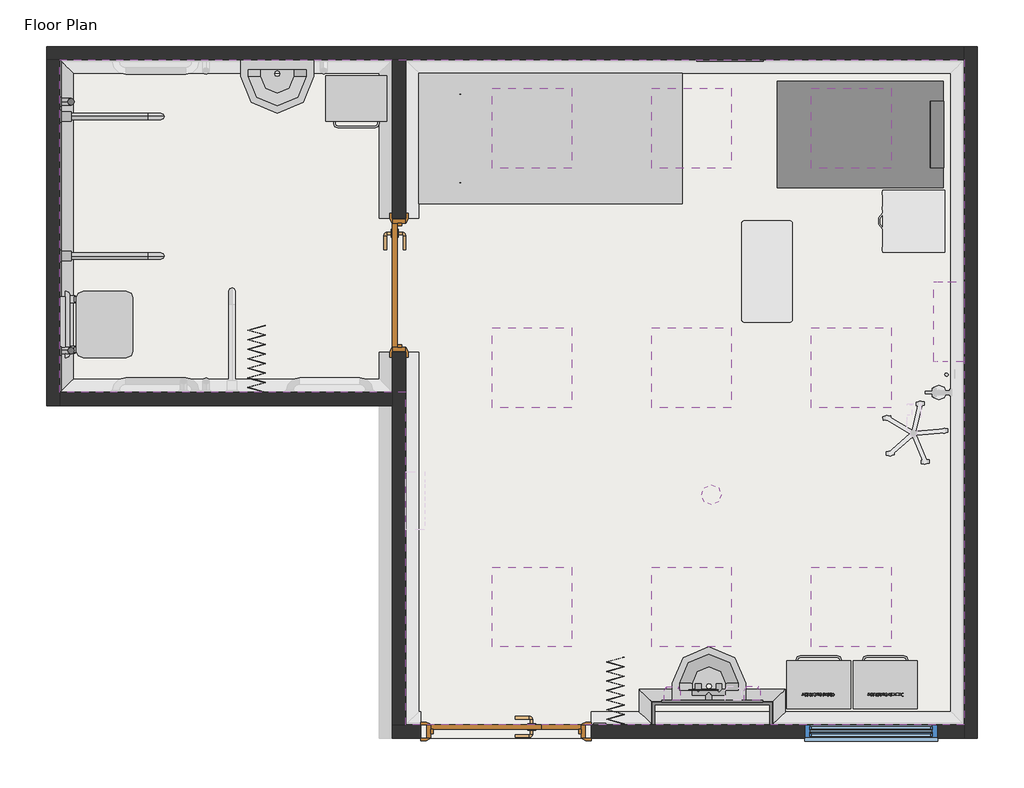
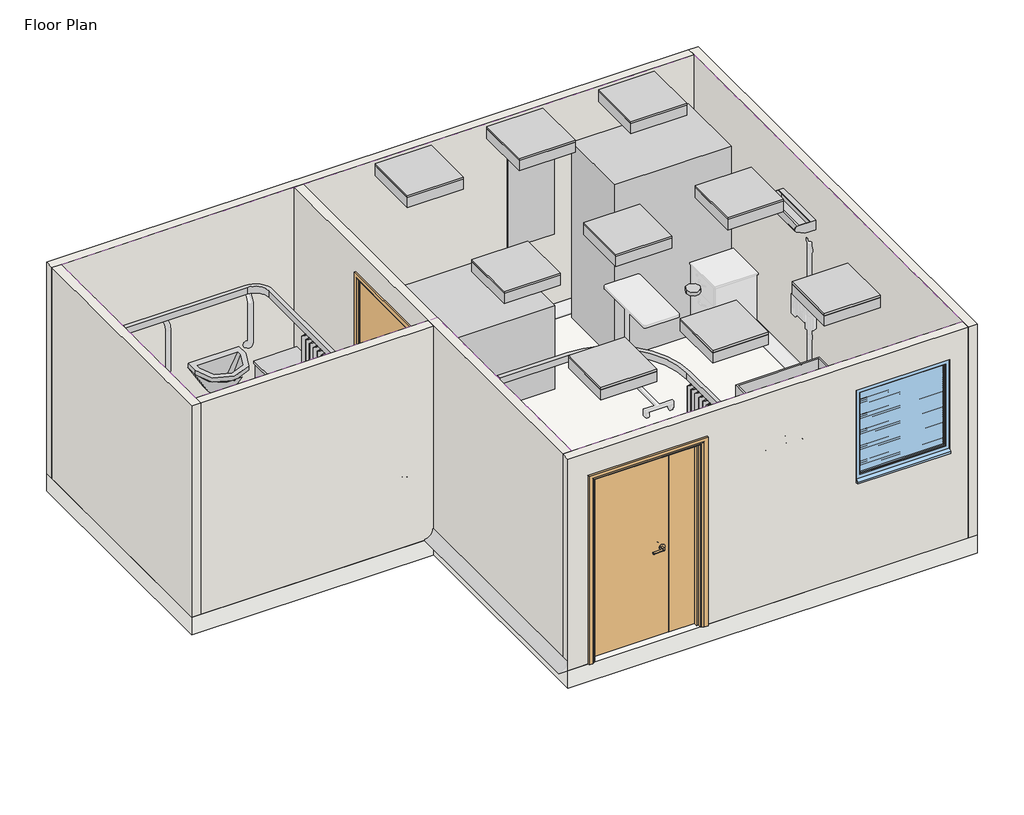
# One storey, part 1 of 2: 12 furniture elements, 10 light fixtures, 8 proxies, 6 walls, 3 flow terminals, 2 doors, 1 covering, 1 slab, 1 window.
"""IFC4 building model written with IfcOpenShell, lengths in millimetres."""

from ifc_helpers import new_model, si_unit, frame, origin, place, context, project, spatial, polyline, ellipse_curve, outline, extrude, faceted_brep, transform, mapped, element, save
from ifc_brep_helpers import plane_surface, revolved_surface, advanced_brep
from components import generic_models_b4c89709, bimhealth_electrical_light_switch_v1_type_1_b5e59f8a, bimhealth_electrical_smoke_detector_v1_bimhealth_electrical_fe9fcb6c, type_1_3e4eb001, type_1_f4c963d5, type_1_f275d547, door_1010x2110mm_ad0e13af, bimhealth_door_and_half_1210x2110mm_sgl_swing_70a7d20a, flow_terminal_9bf15598, flow_terminal_004a381b, flow_terminal_30861e1c, furniture_785aeefc, furniture_cd7ab82e, furniture_29951476, furniture_46abfedd, furniture_01accdc3, furniture_af9008cf, furniture_f87fb194, furniture_385ba860, furniture_166ce8d1, furniture_26d36cfe, furniture_197fe330, furniture_610823a6, lighting_fixtures_troffer_parabolic_square_600x600mm_2_lamps_e1dca80e, type_1_dfacdb5c, window_e51dcf83

model = new_model("IFC4")

# Units and contexts
model_context = context("Model", 3, world=origin())
ifc_project = project(units=[si_unit("LENGTHUNIT", "METRE", prefix="MILLI")], contexts=[model_context])

# Site, building, storey
site = spatial("IfcSite", under=ifc_project)
building = spatial("IfcBuilding", under=site)
storey = spatial("IfcBuildingStorey", under=building, Name="Floor Plan", Elevation=0.0)

# Proxies
placement = place(None, origin())
element("IfcBuildingElementProxy", 1, Name="Wall Sweeps", at=placement, inside=storey, context=model_context, shape_type="AdvancedBrep", body=[
    advanced_brep(
    [(-495.0, 5415.0, 0.0), (-495.0, 5415.0, 100.0), (-485.0, 5405.0, 100.0), (-395.0, 5315.0, 10.0), (-395.0, 5315.0, 0.0), (-495.0, 2915.0, 0.0), (-395.0, 3015.0, 0.0), (-395.0, 3015.0, 10.0), (-485.0, 2925.0, 100.0), (-495.0, 2915.0, 100.0)],
    [
        (0, 1),
        (1, 2),
        (2, 3, ellipse_curve(frame((-395.0, 5315.0, 100.0), z_axis=(-0.7071067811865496, -0.7071067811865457, 0.0), x_axis=(0.7071067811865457, -0.7071067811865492, 0.0)), 127.2792206, 90.0)),
        (3, 4),
        (4, 0),
        (5, 6),
        (6, 7),
        (7, 8, ellipse_curve(frame((-395.0, 3015.0, 100.0), z_axis=(-0.707106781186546, 0.7071067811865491, 0.0), x_axis=(-0.7071067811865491, -0.7071067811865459, 0.0)), 127.2792206, 90.0)),
        (8, 9),
        (9, 5),
        (0, 5),
        (9, 1),
        (8, 2),
        (7, 3),
        (6, 4),
    ],
    [
        plane_surface(frame((-495.0, 5415.0, -304.8), z_axis=(0.7071067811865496, 0.7071067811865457, 0.0), x_axis=(0.7071067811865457, -0.7071067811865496, 0.0))),
        plane_surface(frame((-495.0, 2915.0, -304.8), z_axis=(0.707106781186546, -0.7071067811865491, 0.0), x_axis=(0.7071067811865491, 0.707106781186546, 0.0))),
        plane_surface(frame((-495.0, 5415.0, 0.0), z_axis=(-1.0, 0.0, 0.0), x_axis=(0.0, -1.0, 0.0))),
        plane_surface(frame((-495.0, 5415.0, 100.0), z_axis=(0.0, 0.0, 1.0), x_axis=(0.0, -1.0, 0.0))),
        revolved_surface(polyline([(-305.0, 2925.0, 100.0), (-305.0, 5405.0, 100.0)]), (-395.0, 5415.0, 100.0), (0.0, -1.0, 0.0)),
        plane_surface(frame((-395.0, 5315.0, 10.0), z_axis=(1.0, 0.0, 0.0), x_axis=(0.0, -1.0, 0.0))),
        plane_surface(frame((-395.0, 5315.0, 0.0), z_axis=(0.0, 0.0, -1.0), x_axis=(0.0, -1.0, 0.0))),
    ],
    [
        (0, [[1, 2, 3, 4, 5]]),
        (1, [[6, 7, 8, 9, 10]]),
        (2, [[-1, 11, -10, 12]]),
        (3, [[-2, -12, -9, 13]]),
        (4, [[-3, -13, -8, 14]]),
        (5, [[-4, -14, -7, 15]]),
        (6, [[-5, -15, -6, -11]]),
    ],
),
])
generic_models_shape = generic_models_b4c89709(model_context)
element("IfcBuildingElementProxy", 2, Name="BIMHealth-Seat_Shower-LOD2A-v1 : BIMHealth-Seat_Shower-LOD2A-v1", ObjectType="BIMHealth-Seat_Shower-LOD2A-v1 : BIMHealth-Seat_Shower-LOD2A-v1", at=placement, inside=storey, context=model_context, shape_type="MappedRepresentation", body=[
    mapped(generic_models_shape, transform((-495.0, 3675.0, 0.0), x_axis=(0.0, -1.0000000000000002, 0.0), y_axis=(1.0000000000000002, 0.0, 0.0), z_axis=(0.0, 0.0, 1.0))),
])
bimhealth_electrical_light_switch_v1_type_1_shape = bimhealth_electrical_light_switch_v1_type_1_b5e59f8a(model_context)
element("IfcBuildingElementProxy", 3, Name="BIMHealth-Electrical-Light_Switch-v1 : Type 1", ObjectType="BIMHealth-Electrical-Light_Switch-v1 : Type 1", at=placement, inside=storey, context=model_context, shape_type="MappedRepresentation", body=[
    mapped(bimhealth_electrical_light_switch_v1_type_1_shape, transform((3395.0, 365.0, -60.0), x_axis=(1.0, 0.0, 0.0), y_axis=(0.0, 1.0, 0.0), z_axis=(0.0, 0.0, 1.0))),
])
bimhealth_electrical_smoke_detector_v1_bimhealth_electrical_shape = bimhealth_electrical_smoke_detector_v1_bimhealth_electrical_fe9fcb6c(model_context)
element("IfcBuildingElementProxy", 4, Name="BIMHealth-Electrical-Smoke_Detector-v1 : BIMHealth-Electrical-Smoke_Detector-v1", ObjectType="BIMHealth-Electrical-Smoke_Detector-v1 : BIMHealth-Electrical-Smoke_Detector-v1", at=placement, inside=storey, context=model_context, shape_type="MappedRepresentation", body=[
    mapped(bimhealth_electrical_smoke_detector_v1_bimhealth_electrical_shape, transform((4405.0, 2145.0, -38.4), x_axis=(1.0, 0.0, 0.0), y_axis=(0.0, 1.0, 0.0), z_axis=(0.0, 0.0, 1.0))),
])
type_1_shape = type_1_3e4eb001(model_context)
element("IfcBuildingElementProxy", 5, Name="BIMHealth-Grab_Rail_Vertical-LOD2A-v1 : Type 1", ObjectType="BIMHealth-Grab_Rail_Vertical-LOD2A-v1 : Type 1", at=placement, inside=storey, context=model_context, shape_type="MappedRepresentation", body=[
    mapped(type_1_shape, transform((-545.0, 3355.0, 0.0), x_axis=(0.0, -1.0, 0.0), y_axis=(1.0, 0.0, 0.0), z_axis=(0.0, 0.0, 1.0))),
])
type_1_2_shape = type_1_f4c963d5(model_context)
element("IfcBuildingElementProxy", 6, Name="BIMHealth-Grab_Rail_Vertical-LOD2A-v1 : Type 1", ObjectType="BIMHealth-Grab_Rail_Vertical-LOD2A-v1 : Type 1", at=placement, inside=storey, context=model_context, shape_type="MappedRepresentation", body=[
    mapped(type_1_2_shape, transform((-545.0, 4975.0, 0.0), x_axis=(0.0, 1.0, 0.0), y_axis=(-1.0, 0.0, 0.0), z_axis=(0.0, 0.0, 1.0))),
])
type_1_3_shape = type_1_f275d547(model_context)
element("IfcBuildingElementProxy", 7, Name="BIMHealth-Grab_Rail_Drop_Down-LOD2A-v1 : Type 1", ObjectType="BIMHealth-Grab_Rail_Drop_Down-LOD2A-v1 : Type 1", at=placement, inside=storey, context=model_context, shape_type="MappedRepresentation", body=[
    mapped(type_1_3_shape, transform((-545.0, 4865.0, 0.0), x_axis=(0.0, 1.0, 0.0), y_axis=(-1.0, 0.0, 0.0), z_axis=(0.0, 0.0, 1.0))),
])
element("IfcBuildingElementProxy", 8, Name="BIMHealth-Grab_Rail_Drop_Down-LOD2A-v1 : Type 1", ObjectType="BIMHealth-Grab_Rail_Drop_Down-LOD2A-v1 : Type 1", at=placement, inside=storey, context=model_context, shape_type="MappedRepresentation", body=[
    mapped(type_1_3_shape, transform((-545.0, 3815.0, 0.0), x_axis=(0.0, 1.0, 0.0), y_axis=(-1.0, 0.0, 0.0), z_axis=(0.0, 0.0, 1.0))),
])

# Covering
element("IfcCovering", 9, ObjectType="BIMHealth - Generic Ceiling", at=placement, inside=storey, context=model_context, shape_type="SweptSolid", body=[
    extrude(outline(polyline([(-495.0, 5415.0), (6305.0, 5415.0), (6305.0, 415.0), (2105.0, 415.0), (2105.0, 2915.0), (-495.0, 2915.0), (-495.0, 5415.0)]), holes=[polyline([(3355.0, 1000.0), (3355.0, 1600.0), (2755.0, 1600.0), (2755.0, 1000.0), (3355.0, 1000.0)]), polyline([(3355.0, 2800.0), (3355.0, 3400.0), (2755.0, 3400.0), (2755.0, 2800.0), (3355.0, 2800.0)]), polyline([(3355.0, 5200.0), (2755.0, 5200.0), (2755.0, 4600.0), (3355.0, 4600.0), (3355.0, 5200.0)]), polyline([(4555.0, 1600.0), (3955.0, 1600.0), (3955.0, 1000.0), (4555.0, 1000.0), (4555.0, 1600.0)]), polyline([(4555.0, 3400.0), (3955.0, 3400.0), (3955.0, 2800.0), (4555.0, 2800.0), (4555.0, 3400.0)]), polyline([(4555.0, 5200.0), (3955.0, 5200.0), (3955.0, 4600.0), (4555.0, 4600.0), (4555.0, 5200.0)]), polyline([(5755.0, 1600.0), (5155.0, 1600.0), (5155.0, 1000.0), (5755.0, 1000.0), (5755.0, 1600.0)]), polyline([(5755.0, 3400.0), (5155.0, 3400.0), (5155.0, 2800.0), (5755.0, 2800.0), (5755.0, 3400.0)]), polyline([(5755.0, 5200.0), (5155.0, 5200.0), (5155.0, 4600.0), (5755.0, 4600.0), (5755.0, 5200.0)])]), frame((0.0, 0.0, 2400.0), z_axis=(0.0, 0.0, 1.0), x_axis=(1.0, 0.0, 0.0)), (0.0, 0.0, 1.0), 52.0),
])

# Doors
door_1010x2110mm_shape = door_1010x2110mm_ad0e13af(model_context)
element("IfcDoor", 10, ObjectType="BIMHealth-Single_Door-LOD2A-v1 : 1010x2110mm", at=placement, inside=storey, context=model_context, shape_type="MappedRepresentation", body=[
    mapped(door_1010x2110mm_shape, transform((2055.0, 3720.0, 0.0), x_axis=(0.0, -1.0, 0.0), y_axis=(1.0, 0.0, 0.0), z_axis=(0.0, 0.0, 1.0))),
])
bimhealth_door_and_half_1210x2110mm_sgl_swing_shape = bimhealth_door_and_half_1210x2110mm_sgl_swing_70a7d20a(model_context)
element("IfcDoor", 11, ObjectType="BIMHealth-Door_and_half : 1210x2110mm-Sgl_Swing", at=placement, inside=storey, context=model_context, shape_type="MappedRepresentation", body=[
    mapped(bimhealth_door_and_half_1210x2110mm_sgl_swing_shape, transform((3099.0, 365.0, 0.0), x_axis=(-1.0, 0.0, 0.0), y_axis=(0.0, -1.0, 0.0), z_axis=(0.0, 0.0, 1.0))),
])

# Flow terminals
flow_terminal_shape = flow_terminal_9bf15598(model_context)
element("IfcFlowTerminal", 12, ObjectType="BIMHealth-Wash_basin_Doc_M-LOD2A-v1 : BIMHealth-Wash_basin_Doc_M-LOD2A-v1", at=placement, inside=storey, context=model_context, shape_type="MappedRepresentation", body=[
    mapped(flow_terminal_shape, transform((1415.0, 5415.0, 500.0), x_axis=(-1.0000000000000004, 0.0, 0.0), y_axis=(0.0, -1.0000000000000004, 0.0), z_axis=(0.0, 0.0, 1.0))),
])
flow_terminal_2_shape = flow_terminal_004a381b(model_context)
element("IfcFlowTerminal", 13, ObjectType="BIMHealth-Taps_IPS-LOD2A-v1 : BIMHealth-Taps_IPS-LOD2A-v1", at=placement, inside=storey, context=model_context, shape_type="MappedRepresentation", body=[
    mapped(flow_terminal_2_shape, transform((4508.6392205, 659.1543621, 1022.0), x_axis=(-1.0000000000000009, 0.0, 0.0), y_axis=(0.0, -1.0000000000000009, 0.0), z_axis=(0.0, 0.0, 1.0))),
])
flow_terminal_3_shape = flow_terminal_30861e1c(model_context)
element("IfcFlowTerminal", 14, ObjectType="BIMHealth-Wash_basin-LOD2A-v1 : BIMHealth-Wash_basin-LOD2A-v1", at=placement, inside=storey, context=model_context, shape_type="MappedRepresentation", body=[
    mapped(flow_terminal_3_shape, transform((4661.1392205, 601.0, 500.0), x_axis=(-1.0000000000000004, 0.0, 0.0), y_axis=(0.0, -1.0000000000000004, 0.0), z_axis=(0.0, 0.0, 1.0))),
])

# Furniture
furniture_shape = furniture_785aeefc(model_context)
element("IfcFurniture", 15, ObjectType="BIMHealth-Chair_High_Back-LOD2A-v1 : BIMHealth-Chair_High_Back-LOD2A-v1", at=placement, inside=storey, context=model_context, shape_type="MappedRepresentation", body=[
    mapped(furniture_shape, transform((6149.2819597, 5150.0, 0.0), x_axis=(0.0, -1.0, 0.0), y_axis=(1.0, 0.0, 0.0), z_axis=(0.0, 0.0, 1.0))),
])
furniture_2_shape = furniture_cd7ab82e(model_context)
element("IfcFurniture", 16, ObjectType="BIMHealth-Curtain_Bed-LOD2A-v1 : BIMHealth-Curtain_Bed-LOD2A-v1", at=placement, inside=storey, context=model_context, shape_type="MappedRepresentation", body=[
    mapped(furniture_2_shape, transform((3705.0, 420.0, 0.0), x_axis=(0.0, 1.0, 0.0), y_axis=(-1.0, 0.0, 0.0), z_axis=(0.0, 0.0, 1.0))),
])
furniture_3_shape = furniture_29951476(model_context)
element("IfcFurniture", 17, ObjectType="BIMHealth-Mirror_Consultation-LOD2A-v1 : BIMHealth-Mirror_Consultation-LOD2A-v1", at=placement, inside=storey, context=model_context, shape_type="MappedRepresentation", body=[
    mapped(furniture_3_shape, transform((4295.0, 5415.0, 0.0), x_axis=(1.0, 0.0, 0.0), y_axis=(0.0, 1.0, 0.0), z_axis=(0.0, 0.0, 1.0))),
])
furniture_4_shape = furniture_46abfedd(model_context)
element("IfcFurniture", 18, ObjectType="BIMHealth-Curtain_Doc_M-LOD2A-v1 : BIMHealth-Curtain_Doc_M-LOD2A-v1", at=placement, inside=storey, context=model_context, shape_type="MappedRepresentation", body=[
    mapped(furniture_4_shape, transform((1005.0, 2915.0, 0.0), x_axis=(0.0, 1.0000000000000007, 0.0), y_axis=(-1.0000000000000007, 0.0, 0.0), z_axis=(0.0, 0.0, 1.0))),
])
furniture_5_shape = furniture_01accdc3(model_context)
element("IfcFurniture", 19, ObjectType="BIMHealth-Chair_Visitor_Bed-LOD2A-v1 : BIMHealth-Chair_Visitor_Bed-LOD2A-v1", at=placement, inside=storey, context=model_context, shape_type="MappedRepresentation", body=[
    mapped(furniture_5_shape, transform((2811.5, 4823.5, 0.0), x_axis=(0.0, 1.0, 0.0), y_axis=(-1.0, 0.0, 0.0), z_axis=(0.0, 0.0, 1.0))),
])
furniture_6_shape = furniture_af9008cf(model_context)
element("IfcFurniture", 20, ObjectType="BIMHealth-Bin_Clinical_Foot_Operated-LOD2A-v1 : BIMHealth-Bin_Clinical_Foot_Operated-LOD2A-v1", at=placement, inside=storey, context=model_context, shape_type="MappedRepresentation", body=[
    mapped(furniture_6_shape, transform((1955.0, 5285.0, 0.0), x_axis=(-1.0000000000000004, 0.0, 0.0), y_axis=(0.0, -1.0000000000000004, 0.0), z_axis=(0.0, 0.0, 1.0))),
])
furniture_7_shape = furniture_f87fb194(model_context)
element("IfcFurniture", 21, ObjectType="BIMHealth-Washstation-LOD2A-v1 : BIMHealth-Washstation-LOD2A-v1", at=placement, inside=storey, context=model_context, shape_type="MappedRepresentation", body=[
    mapped(furniture_7_shape, transform((3961.1392205, 415.0, 0.0), x_axis=(-1.0000000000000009, 0.0, 0.0), y_axis=(0.0, -1.0000000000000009, 0.0), z_axis=(0.0, 0.0, 1.0))),
])
furniture_8_shape = furniture_385ba860(model_context)
element("IfcFurniture", 22, ObjectType="BIMHealth-Alcohol_gel_dispenser-LOD2A-v1 : BIMHealth-Alcohol_gel_dispenser-LOD2A-v1", at=placement, inside=storey, context=model_context, shape_type="MappedRepresentation", body=[
    mapped(furniture_8_shape, transform((4170.3818356, 601.0, 150.0), x_axis=(-1.0000000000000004, 0.0, 0.0), y_axis=(0.0, -1.0000000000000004, 0.0), z_axis=(0.0, 0.0, 1.0))),
])
furniture_9_shape = furniture_166ce8d1(model_context)
element("IfcFurniture", 23, ObjectType="BIMHealth-Paper_Towel_Dispenser-LOD2A-v1 : BIMHealth-Paper_Towel_Dispenser-LOD2A-v1", at=placement, inside=storey, context=model_context, shape_type="MappedRepresentation", body=[
    mapped(furniture_9_shape, transform((4485.0, 601.0, 20.0), x_axis=(-1.0000000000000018, 0.0, 0.0), y_axis=(0.0, -1.0000000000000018, 0.0), z_axis=(0.0, 0.0, 1.0))),
])
furniture_10_shape = furniture_26d36cfe(model_context)
element("IfcFurniture", 24, ObjectType="BIMHealth-Soap_Dispenser-LOD2A-v1 : BIMHealth-Soap_Dispenser-LOD2A-v1", at=placement, inside=storey, context=model_context, shape_type="MappedRepresentation", body=[
    mapped(furniture_10_shape, transform((4770.3818356, 601.0, 150.0), x_axis=(-1.0000000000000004, 0.0, 0.0), y_axis=(0.0, -1.0000000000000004, 0.0), z_axis=(0.0, 0.0, 1.0))),
])
furniture_11_shape = furniture_197fe330(model_context)
element("IfcFurniture", 25, ObjectType="BIMHealth-Sack_Holder_Domestic-LOD2A-v1 : BIMHealth-Sack_Holder_Domestic-LOD2A-v1", at=placement, inside=storey, context=model_context, shape_type="MappedRepresentation", body=[
    mapped(furniture_11_shape, transform((5930.8496666, 555.0, 0.0), x_axis=(-1.0000000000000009, 0.0, 0.0), y_axis=(0.0, -1.0000000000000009, 0.0), z_axis=(0.0, 0.0, 1.0))),
])
furniture_12_shape = furniture_610823a6(model_context)
element("IfcFurniture", 26, ObjectType="BIMHealth-Sack_Holder_Clinical-LOD2A-v1 : BIMHealth-Sack_Holder_Clinical-LOD2A-v1", at=placement, inside=storey, context=model_context, shape_type="MappedRepresentation", body=[
    mapped(furniture_12_shape, transform((5430.8496666, 555.0, 0.0), x_axis=(-1.0000000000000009, 0.0, 0.0), y_axis=(0.0, -1.0000000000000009, 0.0), z_axis=(0.0, 0.0, 1.0))),
])

# Light fixtures
lighting_fixtures_troffer_parabolic_square_600x600mm_2_lamps_shape = lighting_fixtures_troffer_parabolic_square_600x600mm_2_lamps_e1dca80e(model_context)
element("IfcLightFixture", 27, ObjectType="Lighting_Fixtures_Troffer_Parabolic_Square : 600x600mm-2_Lamps", at=placement, inside=storey, context=model_context, shape_type="MappedRepresentation", body=[
    mapped(lighting_fixtures_troffer_parabolic_square_600x600mm_2_lamps_shape, transform((3078.5035016, 1354.6659321, -38.4), x_axis=(1.0, 0.0, 0.0), y_axis=(0.0, 1.0, 0.0), z_axis=(0.0, 0.0, 1.0))),
])
element("IfcLightFixture", 28, ObjectType="Lighting_Fixtures_Troffer_Parabolic_Square : 600x600mm-2_Lamps", at=placement, inside=storey, context=model_context, shape_type="MappedRepresentation", body=[
    mapped(lighting_fixtures_troffer_parabolic_square_600x600mm_2_lamps_shape, transform((3078.5035016, 3154.6659321, -38.4), x_axis=(1.0, 0.0, 0.0), y_axis=(0.0, 1.0, 0.0), z_axis=(0.0, 0.0, 1.0))),
])
element("IfcLightFixture", 29, ObjectType="Lighting_Fixtures_Troffer_Parabolic_Square : 600x600mm-2_Lamps", at=placement, inside=storey, context=model_context, shape_type="MappedRepresentation", body=[
    mapped(lighting_fixtures_troffer_parabolic_square_600x600mm_2_lamps_shape, transform((3078.5035016, 4954.6659321, -38.4), x_axis=(1.0, 0.0, 0.0), y_axis=(0.0, 1.0, 0.0), z_axis=(0.0, 0.0, 1.0))),
])
element("IfcLightFixture", 30, ObjectType="Lighting_Fixtures_Troffer_Parabolic_Square : 600x600mm-2_Lamps", at=placement, inside=storey, context=model_context, shape_type="MappedRepresentation", body=[
    mapped(lighting_fixtures_troffer_parabolic_square_600x600mm_2_lamps_shape, transform((4278.5035016, 1354.6659321, -38.4), x_axis=(1.0, 0.0, 0.0), y_axis=(0.0, 1.0, 0.0), z_axis=(0.0, 0.0, 1.0))),
])
element("IfcLightFixture", 31, ObjectType="Lighting_Fixtures_Troffer_Parabolic_Square : 600x600mm-2_Lamps", at=placement, inside=storey, context=model_context, shape_type="MappedRepresentation", body=[
    mapped(lighting_fixtures_troffer_parabolic_square_600x600mm_2_lamps_shape, transform((4278.5035016, 3154.6659321, -38.4), x_axis=(1.0, 0.0, 0.0), y_axis=(0.0, 1.0, 0.0), z_axis=(0.0, 0.0, 1.0))),
])
element("IfcLightFixture", 32, ObjectType="Lighting_Fixtures_Troffer_Parabolic_Square : 600x600mm-2_Lamps", at=placement, inside=storey, context=model_context, shape_type="MappedRepresentation", body=[
    mapped(lighting_fixtures_troffer_parabolic_square_600x600mm_2_lamps_shape, transform((4278.5035016, 4954.6659321, -38.4), x_axis=(1.0, 0.0, 0.0), y_axis=(0.0, 1.0, 0.0), z_axis=(0.0, 0.0, 1.0))),
])
element("IfcLightFixture", 33, ObjectType="Lighting_Fixtures_Troffer_Parabolic_Square : 600x600mm-2_Lamps", at=placement, inside=storey, context=model_context, shape_type="MappedRepresentation", body=[
    mapped(lighting_fixtures_troffer_parabolic_square_600x600mm_2_lamps_shape, transform((5478.5035016, 1354.6659321, -38.4), x_axis=(1.0, 0.0, 0.0), y_axis=(0.0, 1.0, 0.0), z_axis=(0.0, 0.0, 1.0))),
])
element("IfcLightFixture", 34, ObjectType="Lighting_Fixtures_Troffer_Parabolic_Square : 600x600mm-2_Lamps", at=placement, inside=storey, context=model_context, shape_type="MappedRepresentation", body=[
    mapped(lighting_fixtures_troffer_parabolic_square_600x600mm_2_lamps_shape, transform((5478.5035016, 3154.6659321, -38.4), x_axis=(1.0, 0.0, 0.0), y_axis=(0.0, 1.0, 0.0), z_axis=(0.0, 0.0, 1.0))),
])
element("IfcLightFixture", 35, ObjectType="Lighting_Fixtures_Troffer_Parabolic_Square : 600x600mm-2_Lamps", at=placement, inside=storey, context=model_context, shape_type="MappedRepresentation", body=[
    mapped(lighting_fixtures_troffer_parabolic_square_600x600mm_2_lamps_shape, transform((5478.5035016, 4954.6659321, -38.4), x_axis=(1.0, 0.0, 0.0), y_axis=(0.0, 1.0, 0.0), z_axis=(0.0, 0.0, 1.0))),
])
type_1_4_shape = type_1_dfacdb5c(model_context)
element("IfcLightFixture", 36, ObjectType="BIMHealth-Lighting-Bed_Luminaire-LOD2A-v1 : Type 1", at=placement, inside=storey, context=model_context, shape_type="MappedRepresentation", body=[
    mapped(type_1_4_shape, transform((6355.0, 3320.0, -7.5), x_axis=(0.0, 1.0, 0.0), y_axis=(-1.0, 0.0, 0.0), z_axis=(0.0, 0.0, 1.0))),
])

# Slab
element("IfcSlab", 37, ObjectType="BIMHealth - Generic Floor", at=placement, inside=storey, context=model_context, shape_type="SweptSolid", body=[
    extrude(outline(polyline([(6405.0, 5515.0), (6405.0, 315.0), (2005.0, 315.0), (2005.0, 2815.0), (-595.0, 2815.0), (-595.0, 5515.0), (6405.0, 5515.0)])), frame((0.0, 0.0, -200.0), z_axis=(0.0, 0.0, 1.0), x_axis=(1.0, 0.0, 0.0)), (0.0, 0.0, 1.0), 200.0),
])

# Walls
element("IfcWall", 38, ObjectType="BIMHealth - Generic Wall", at=placement, inside=storey, context=model_context, shape_type="Brep", body=[
    faceted_brep([(6305.0, 5515.0, 0.0), (6305.0, 5415.0, 0.0), (6305.0, 415.0, 0.0), (6305.0, 315.0, 0.0), (6305.0, 315.0, 2400.0), (6305.0, 415.0, 2400.0), (6305.0, 5415.0, 2400.0), (6305.0, 5515.0, 2400.0), (6405.0, 5515.0, 0.0), (6405.0, 5515.0, 2400.0), (6405.0, 315.0, 2400.0), (6405.0, 315.0, 0.0)], [[[0, 1, 2, 3, 4, 5, 6, 7]], [[8, 9, 10, 11]], [[3, 2, 1, 0, 8, 11]], [[7, 6, 5, 4, 10, 9]], [[4, 3, 11, 10]], [[0, 7, 9, 8]]]),
])
element("IfcWall", 39, ObjectType="BIMHealth - Generic Wall", at=placement, inside=storey, context=model_context, shape_type="Brep", body=[
    faceted_brep([(2005.0, 415.0, 2400.0), (2105.0, 415.0, 2400.0), (6305.0, 415.0, 2400.0), (6305.0, 415.0, 0.0), (3500.0, 415.0, 0.0), (3500.0, 415.0, 100.0), (3500.0, 415.0, 2110.0), (2220.0, 415.0, 2110.0), (2220.0, 415.0, 100.0), (2220.0, 415.0, 0.0), (2105.0, 415.0, 0.0), (2005.0, 415.0, 0.0), (6105.0, 415.0, 1050.0), (6105.0, 415.0, 2100.0), (5105.0, 415.0, 2100.0), (5105.0, 415.0, 1050.0), (6305.0, 315.0, 2400.0), (2005.0, 315.0, 2400.0), (2005.0, 315.0, 0.0), (2220.0, 315.0, 0.0), (2220.0, 315.0, 2110.0), (3500.0, 315.0, 2110.0), (3500.0, 315.0, 0.0), (6305.0, 315.0, 0.0), (6105.0, 315.0, 1050.0), (5105.0, 315.0, 1050.0), (5105.0, 315.0, 2100.0), (6105.0, 315.0, 2100.0)], [[[0, 1, 2, 3, 4, 5, 6, 7, 8, 9, 10, 11], [12, 13, 14, 15]], [[16, 17, 18, 19, 20, 21, 22, 23], [24, 25, 26, 27]], [[3, 23, 22, 4]], [[18, 11, 10, 9, 19]], [[2, 1, 0, 17, 16]], [[3, 2, 16, 23]], [[0, 11, 18, 17]], [[7, 20, 19, 9, 8]], [[20, 7, 6, 21]], [[21, 6, 5, 4, 22]], [[13, 12, 24, 27]], [[14, 13, 27, 26]], [[15, 14, 26, 25]], [[12, 15, 25, 24]]]),
])
element("IfcWall", 40, ObjectType="BIMHealth - Generic Wall", at=placement, inside=storey, context=model_context, shape_type="Brep", body=[
    faceted_brep([(-595.0, 5415.0, 0.0), (-495.0, 5415.0, 0.0), (2005.0, 5415.0, 0.0), (2105.0, 5415.0, 0.0), (6305.0, 5415.0, 0.0), (6305.0, 5415.0, 2400.0), (2105.0, 5415.0, 2400.0), (2005.0, 5415.0, 2400.0), (-495.0, 5415.0, 2400.0), (-595.0, 5415.0, 2400.0), (-595.0, 5515.0, 0.0), (-595.0, 5515.0, 2400.0), (6305.0, 5515.0, 2400.0), (6305.0, 5515.0, 0.0)], [[[0, 1, 2, 3, 4, 5, 6, 7, 8, 9]], [[10, 11, 12, 13]], [[4, 3, 2, 1, 0, 10, 13]], [[9, 8, 7, 6, 5, 12, 11]], [[0, 9, 11, 10]], [[5, 4, 13, 12]]]),
])
element("IfcWall", 41, ObjectType="BIMHealth - Generic Wall", at=placement, inside=storey, context=model_context, shape_type="Brep", body=[
    faceted_brep([(-595.0, 5415.0, 0.0), (-595.0, 2815.0, 0.0), (-595.0, 2815.0, 2400.0), (-595.0, 5415.0, 2400.0), (-495.0, 5415.0, 0.0), (-495.0, 5415.0, 2400.0), (-495.0, 2915.0, 2400.0), (-495.0, 2815.0, 2400.0), (-495.0, 2815.0, 0.0), (-495.0, 2915.0, 0.0)], [[[0, 1, 2, 3]], [[4, 5, 6, 7, 8, 9]], [[1, 0, 4, 9, 8]], [[3, 2, 7, 6, 5]], [[0, 3, 5, 4]], [[2, 1, 8, 7]]]),
])
element("IfcWall", 42, ObjectType="BIMHealth - Generic Wall", at=placement, inside=storey, context=model_context, shape_type="Brep", body=[
    faceted_brep([(-495.0, 2815.0, 0.0), (2005.0, 2815.0, 0.0), (2005.0, 2815.0, 2400.0), (-495.0, 2815.0, 2400.0), (-495.0, 2915.0, 0.0), (-495.0, 2915.0, 2400.0), (2005.0, 2915.0, 2400.0), (2005.0, 2915.0, 100.0), (2005.0, 2915.0, 0.0)], [[[0, 1, 2, 3]], [[4, 5, 6, 7, 8]], [[1, 0, 4, 8]], [[3, 2, 6, 5]], [[0, 3, 5, 4]], [[2, 1, 8, 7, 6]]]),
])
element("IfcWall", 43, ObjectType="BIMHealth - Generic Wall 2", at=placement, inside=storey, context=model_context, shape_type="Brep", body=[
    faceted_brep([(2105.0, 5415.0, 2400.0), (2105.0, 415.0, 2400.0), (2105.0, 415.0, 0.0), (2105.0, 3215.0, 0.0), (2105.0, 3215.0, 100.0), (2105.0, 3215.0, 2110.0), (2105.0, 4225.0, 2110.0), (2105.0, 4225.0, 100.0), (2105.0, 4225.0, 0.0), (2105.0, 5415.0, 0.0), (2105.0, 5415.0, 100.0), (2005.0, 415.0, 2400.0), (2005.0, 2815.0, 2400.0), (2005.0, 2915.0, 2400.0), (2005.0, 5415.0, 2400.0), (2005.0, 5415.0, 100.0), (2005.0, 5415.0, 0.0), (2005.0, 4225.0, 0.0), (2005.0, 4225.0, 100.0), (2005.0, 4225.0, 2110.0), (2005.0, 3215.0, 2110.0), (2005.0, 3215.0, 100.0), (2005.0, 3215.0, 0.0), (2005.0, 2915.0, 0.0), (2005.0, 2815.0, 0.0), (2005.0, 415.0, 0.0)], [[[0, 1, 2, 3, 4, 5, 6, 7, 8, 9, 10]], [[11, 12, 13, 14, 15, 16, 17, 18, 19, 20, 21, 22, 23, 24, 25]], [[2, 25, 24, 23, 22, 3]], [[16, 9, 8, 17]], [[1, 0, 14, 13, 12, 11]], [[2, 1, 11, 25]], [[20, 5, 4, 3, 22, 21]], [[5, 20, 19, 6]], [[6, 19, 18, 17, 8, 7]], [[0, 10, 9, 16, 15, 14]]]),
])

# Window
window_shape = window_e51dcf83(model_context)
element("IfcWindow", 44, ObjectType="BIMHealth-Window_Vistamatic-LOD2A-v1 : BIMHealth-Window_Vistamatic-LOD2A-v1", at=placement, inside=storey, context=model_context, shape_type="MappedRepresentation", body=[
    mapped(window_shape, transform((5605.0, 365.0, 0.0), x_axis=(-1.0, 0.0, 0.0), y_axis=(0.0, -1.0, 0.0), z_axis=(0.0, 0.0, 1.0))),
])

save(model, "model.ifc")
